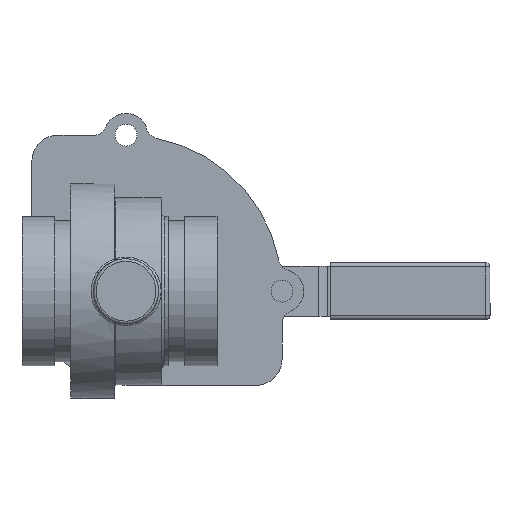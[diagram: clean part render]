
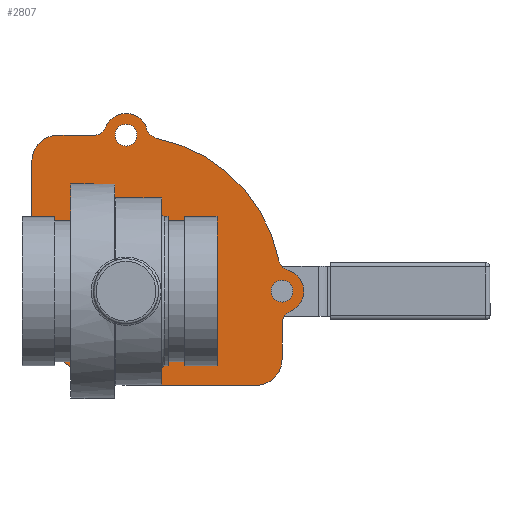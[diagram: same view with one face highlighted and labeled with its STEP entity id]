
A CAD part, front view. The second image highlights one B-rep face of the part: STEP entity #2807.
In plain terms, the highlighted planar face has unit normal (0, -1, 0).
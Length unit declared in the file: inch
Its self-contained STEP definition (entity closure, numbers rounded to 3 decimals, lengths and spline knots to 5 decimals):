
#122=FACE_BOUND('',#479,.T.);
#123=FACE_BOUND('',#480,.T.);
#124=FACE_BOUND('',#481,.T.);
#125=FACE_BOUND('',#482,.T.);
#126=FACE_BOUND('',#483,.T.);
#127=FACE_BOUND('',#484,.T.);
#128=FACE_BOUND('',#485,.T.);
#166=PLANE('',#3210);
#304=FACE_OUTER_BOUND('',#478,.T.);
#478=EDGE_LOOP('',(#2219,#2220,#2221,#2222,#2223,#2224,#2225,#2226,#2227,
#2228,#2229,#2230,#2231,#2232));
#479=EDGE_LOOP('',(#2233));
#480=EDGE_LOOP('',(#2234));
#481=EDGE_LOOP('',(#2235));
#482=EDGE_LOOP('',(#2236));
#483=EDGE_LOOP('',(#2237));
#484=EDGE_LOOP('',(#2238));
#485=EDGE_LOOP('',(#2239));
#614=LINE('',#5251,#784);
#618=LINE('',#5263,#788);
#628=LINE('',#5311,#798);
#632=LINE('',#5322,#802);
#784=VECTOR('',#3804,0.3937);
#788=VECTOR('',#3816,0.3937);
#798=VECTOR('',#3870,0.3937);
#802=VECTOR('',#3882,0.3937);
#1002=CIRCLE('',#3157,0.21);
#1004=CIRCLE('',#3160,0.19);
#1006=CIRCLE('',#3163,0.19);
#1008=CIRCLE('',#3166,0.19);
#1010=CIRCLE('',#3169,0.19);
#1012=CIRCLE('',#3172,0.21);
#1014=CIRCLE('',#3175,0.36);
#1015=CIRCLE('',#3177,1.81);
#1017=CIRCLE('',#3181,0.5);
#1019=CIRCLE('',#3185,0.25);
#1021=CIRCLE('',#3188,0.42);
#1023=CIRCLE('',#3191,0.25);
#1025=CIRCLE('',#3194,3.);
#1027=CIRCLE('',#3197,0.25);
#1029=CIRCLE('',#3200,0.42);
#1031=CIRCLE('',#3203,0.25);
#1033=CIRCLE('',#3207,0.5);
#1203=VERTEX_POINT('',#5201);
#1205=VERTEX_POINT('',#5207);
#1207=VERTEX_POINT('',#5213);
#1209=VERTEX_POINT('',#5219);
#1211=VERTEX_POINT('',#5225);
#1213=VERTEX_POINT('',#5231);
#1215=VERTEX_POINT('',#5237);
#1216=VERTEX_POINT('',#5241);
#1217=VERTEX_POINT('',#5242);
#1220=VERTEX_POINT('',#5250);
#1222=VERTEX_POINT('',#5256);
#1224=VERTEX_POINT('',#5262);
#1226=VERTEX_POINT('',#5268);
#1228=VERTEX_POINT('',#5274);
#1230=VERTEX_POINT('',#5280);
#1232=VERTEX_POINT('',#5286);
#1234=VERTEX_POINT('',#5292);
#1236=VERTEX_POINT('',#5298);
#1238=VERTEX_POINT('',#5304);
#1240=VERTEX_POINT('',#5310);
#1242=VERTEX_POINT('',#5316);
#1531=EDGE_CURVE('',#1203,#1203,#1002,.T.);
#1534=EDGE_CURVE('',#1205,#1205,#1004,.T.);
#1537=EDGE_CURVE('',#1207,#1207,#1006,.T.);
#1540=EDGE_CURVE('',#1209,#1209,#1008,.T.);
#1543=EDGE_CURVE('',#1211,#1211,#1010,.T.);
#1546=EDGE_CURVE('',#1213,#1213,#1012,.T.);
#1549=EDGE_CURVE('',#1215,#1215,#1014,.T.);
#1550=EDGE_CURVE('',#1216,#1217,#1015,.T.);
#1554=EDGE_CURVE('',#1217,#1220,#614,.T.);
#1557=EDGE_CURVE('',#1220,#1222,#1017,.T.);
#1560=EDGE_CURVE('',#1222,#1224,#618,.T.);
#1563=EDGE_CURVE('',#1224,#1226,#1019,.T.);
#1566=EDGE_CURVE('',#1226,#1228,#1021,.T.);
#1569=EDGE_CURVE('',#1228,#1230,#1023,.T.);
#1572=EDGE_CURVE('',#1230,#1232,#1025,.T.);
#1575=EDGE_CURVE('',#1232,#1234,#1027,.T.);
#1578=EDGE_CURVE('',#1234,#1236,#1029,.T.);
#1581=EDGE_CURVE('',#1236,#1238,#1031,.T.);
#1584=EDGE_CURVE('',#1238,#1240,#628,.T.);
#1587=EDGE_CURVE('',#1240,#1242,#1033,.T.);
#1590=EDGE_CURVE('',#1242,#1216,#632,.T.);
#2219=ORIENTED_EDGE('',*,*,#1590,.T.);
#2220=ORIENTED_EDGE('',*,*,#1550,.T.);
#2221=ORIENTED_EDGE('',*,*,#1554,.T.);
#2222=ORIENTED_EDGE('',*,*,#1557,.T.);
#2223=ORIENTED_EDGE('',*,*,#1560,.T.);
#2224=ORIENTED_EDGE('',*,*,#1563,.T.);
#2225=ORIENTED_EDGE('',*,*,#1566,.T.);
#2226=ORIENTED_EDGE('',*,*,#1569,.T.);
#2227=ORIENTED_EDGE('',*,*,#1572,.T.);
#2228=ORIENTED_EDGE('',*,*,#1575,.T.);
#2229=ORIENTED_EDGE('',*,*,#1578,.T.);
#2230=ORIENTED_EDGE('',*,*,#1581,.T.);
#2231=ORIENTED_EDGE('',*,*,#1584,.T.);
#2232=ORIENTED_EDGE('',*,*,#1587,.T.);
#2233=ORIENTED_EDGE('',*,*,#1531,.T.);
#2234=ORIENTED_EDGE('',*,*,#1534,.T.);
#2235=ORIENTED_EDGE('',*,*,#1537,.T.);
#2236=ORIENTED_EDGE('',*,*,#1540,.T.);
#2237=ORIENTED_EDGE('',*,*,#1543,.T.);
#2238=ORIENTED_EDGE('',*,*,#1546,.T.);
#2239=ORIENTED_EDGE('',*,*,#1549,.T.);
#2807=ADVANCED_FACE('',(#304,#122,#123,#124,#125,#126,#127,#128),#166,.F.);
#3157=AXIS2_PLACEMENT_3D('',#5203,#3750,#3751);
#3160=AXIS2_PLACEMENT_3D('',#5209,#3757,#3758);
#3163=AXIS2_PLACEMENT_3D('',#5215,#3764,#3765);
#3166=AXIS2_PLACEMENT_3D('',#5221,#3771,#3772);
#3169=AXIS2_PLACEMENT_3D('',#5227,#3778,#3779);
#3172=AXIS2_PLACEMENT_3D('',#5233,#3785,#3786);
#3175=AXIS2_PLACEMENT_3D('',#5239,#3792,#3793);
#3177=AXIS2_PLACEMENT_3D('',#5243,#3796,#3797);
#3181=AXIS2_PLACEMENT_3D('',#5257,#3809,#3810);
#3185=AXIS2_PLACEMENT_3D('',#5269,#3821,#3822);
#3188=AXIS2_PLACEMENT_3D('',#5275,#3828,#3829);
#3191=AXIS2_PLACEMENT_3D('',#5281,#3835,#3836);
#3194=AXIS2_PLACEMENT_3D('',#5287,#3842,#3843);
#3197=AXIS2_PLACEMENT_3D('',#5293,#3849,#3850);
#3200=AXIS2_PLACEMENT_3D('',#5299,#3856,#3857);
#3203=AXIS2_PLACEMENT_3D('',#5305,#3863,#3864);
#3207=AXIS2_PLACEMENT_3D('',#5317,#3875,#3876);
#3210=AXIS2_PLACEMENT_3D('',#5324,#3884,#3885);
#3750=DIRECTION('center_axis',(0.,1.,0.));
#3751=DIRECTION('ref_axis',(-1.,0.,0.));
#3757=DIRECTION('center_axis',(0.,1.,0.));
#3758=DIRECTION('ref_axis',(-1.,0.,0.));
#3764=DIRECTION('center_axis',(0.,1.,0.));
#3765=DIRECTION('ref_axis',(-1.,0.,0.));
#3771=DIRECTION('center_axis',(0.,1.,0.));
#3772=DIRECTION('ref_axis',(-1.,0.,0.));
#3778=DIRECTION('center_axis',(0.,1.,0.));
#3779=DIRECTION('ref_axis',(-1.,0.,0.));
#3785=DIRECTION('center_axis',(0.,1.,0.));
#3786=DIRECTION('ref_axis',(-1.,0.,0.));
#3792=DIRECTION('center_axis',(0.,1.,0.));
#3793=DIRECTION('ref_axis',(-1.,0.,0.));
#3796=DIRECTION('center_axis',(0.,-1.,0.));
#3797=DIRECTION('ref_axis',(0.,0.,1.));
#3804=DIRECTION('',(1.,0.,0.));
#3809=DIRECTION('center_axis',(0.,-1.,0.));
#3810=DIRECTION('ref_axis',(-1.,0.,0.));
#3816=DIRECTION('',(0.,0.,1.));
#3821=DIRECTION('center_axis',(0.,1.,0.));
#3822=DIRECTION('ref_axis',(-1.,0.,0.));
#3828=DIRECTION('center_axis',(0.,-1.,0.));
#3829=DIRECTION('ref_axis',(-0.277,0.,-0.961));
#3835=DIRECTION('center_axis',(0.,1.,0.));
#3836=DIRECTION('ref_axis',(-0.277,0.,-0.961));
#3842=DIRECTION('center_axis',(0.,-1.,0.));
#3843=DIRECTION('ref_axis',(-0.198,0.,-0.98));
#3849=DIRECTION('center_axis',(0.,1.,0.));
#3850=DIRECTION('ref_axis',(-0.198,0.,-0.98));
#3856=DIRECTION('center_axis',(0.,-1.,0.));
#3857=DIRECTION('ref_axis',(0.928,0.,-0.373));
#3863=DIRECTION('center_axis',(0.,1.,0.));
#3864=DIRECTION('ref_axis',(0.928,0.,-0.373));
#3870=DIRECTION('',(-1.,0.,0.));
#3875=DIRECTION('center_axis',(0.,-1.,0.));
#3876=DIRECTION('ref_axis',(1.,0.,0.));
#3882=DIRECTION('',(0.,0.,-1.));
#3884=DIRECTION('center_axis',(0.,1.,0.));
#3885=DIRECTION('ref_axis',(0.,0.,1.));
#5201=CARTESIAN_POINT('',(3.21,0.,0.));
#5203=CARTESIAN_POINT('Origin',(3.,0.,0.));
#5207=CARTESIAN_POINT('',(-0.78227,0.,-0.97227));
#5209=CARTESIAN_POINT('Origin',(-0.97227,0.,-0.97227));
#5213=CARTESIAN_POINT('',(1.16227,0.,0.97227));
#5215=CARTESIAN_POINT('Origin',(0.97227,0.,0.97227));
#5219=CARTESIAN_POINT('',(1.16227,0.,-0.97227));
#5221=CARTESIAN_POINT('Origin',(0.97227,0.,-0.97227));
#5225=CARTESIAN_POINT('',(-0.78227,0.,0.97227));
#5227=CARTESIAN_POINT('Origin',(-0.97227,0.,0.97227));
#5231=CARTESIAN_POINT('',(0.21,0.,3.));
#5233=CARTESIAN_POINT('Origin',(0.,0.,3.));
#5237=CARTESIAN_POINT('',(0.36,0.,0.));
#5239=CARTESIAN_POINT('Origin',(0.,0.,0.));
#5241=CARTESIAN_POINT('',(-1.81,0.,0.));
#5242=CARTESIAN_POINT('',(0.,0.,-1.81));
#5243=CARTESIAN_POINT('Origin',(0.,0.,0.));
#5250=CARTESIAN_POINT('',(2.5,0.,-1.81));
#5251=CARTESIAN_POINT('',(0.,0.,-1.81));
#5256=CARTESIAN_POINT('',(3.,0.,-1.31));
#5257=CARTESIAN_POINT('Origin',(2.5,0.,-1.31));
#5262=CARTESIAN_POINT('',(3.,0.,-0.62161));
#5263=CARTESIAN_POINT('',(3.,0.,-1.31));
#5268=CARTESIAN_POINT('',(3.15672,0.,-0.38967));
#5269=CARTESIAN_POINT('Origin',(3.25,0.,-0.62161));
#5274=CARTESIAN_POINT('',(3.11635,0.,0.40356));
#5275=CARTESIAN_POINT('Origin',(3.,0.,0.));
#5280=CARTESIAN_POINT('',(2.94055,0.,0.59426));
#5281=CARTESIAN_POINT('Origin',(3.1856,0.,0.64378));
#5286=CARTESIAN_POINT('',(0.59426,0.,2.94055));
#5287=CARTESIAN_POINT('Origin',(0.,0.,0.));
#5292=CARTESIAN_POINT('',(0.40356,0.,3.11635));
#5293=CARTESIAN_POINT('Origin',(0.64378,0.,3.1856));
#5298=CARTESIAN_POINT('',(-0.38967,0.,3.15672));
#5299=CARTESIAN_POINT('Origin',(0.,0.,3.));
#5304=CARTESIAN_POINT('',(-0.62161,0.,3.));
#5305=CARTESIAN_POINT('Origin',(-0.62161,0.,3.25));
#5310=CARTESIAN_POINT('',(-1.31,0.,3.));
#5311=CARTESIAN_POINT('',(-0.62161,0.,3.));
#5316=CARTESIAN_POINT('',(-1.81,0.,2.5));
#5317=CARTESIAN_POINT('Origin',(-1.31,0.,2.5));
#5322=CARTESIAN_POINT('',(-1.81,0.,2.5));
#5324=CARTESIAN_POINT('Origin',(0.50298,0.,0.50298));
